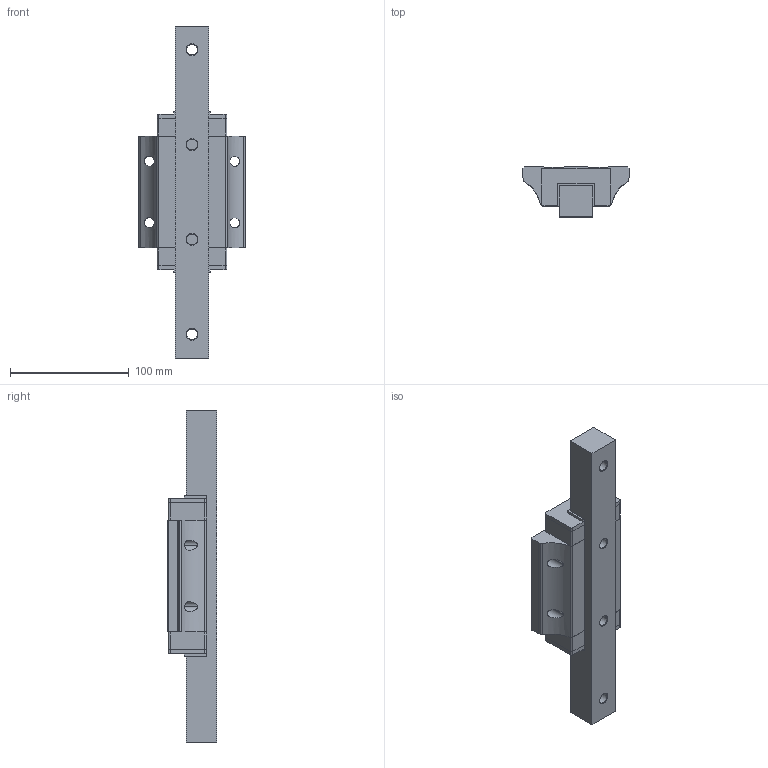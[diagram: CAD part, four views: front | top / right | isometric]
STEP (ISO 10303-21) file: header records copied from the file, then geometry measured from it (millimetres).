
FILE_DESCRIPTION( ( 'STEP File Generated from CADKEY Workshop EX' ), '1' );
FILE_NAME( 'Part1', '2004-11-06T00:04:55', ( 'CADKEY USER' ), ( 'CADKEY CORPORATION' ), 'ACIS Interop R11 SP4', 'CADKEY Workshop EX V21.05.02 (0359)', 'CK' );
FILE_SCHEMA( ( 'CONFIG_CONTROL_DESIGN' ) );
Length unit declared in the file: millimetre
Products named in the file (6): 1; 2; 3; 4; 5; 6
Bounding box: 90 x 42 x 280 mm (x, y, z)
Volume: 432309.8 mm3; surface area: 84372.8 mm2
Topology: 6 solids, 6 shells, 148 faces, 380 edges, 248 vertices
Faces by surface type: plane 84, cylinder 48, cone 16
Entity records: 5009 total; most frequent: CARTESIAN_POINT 1030, DIRECTION 784, ORIENTED_EDGE 760, EDGE_CURVE 380, LINE 268, VECTOR 268, AXIS2_PLACEMENT_3D 258, VERTEX_POINT 248
